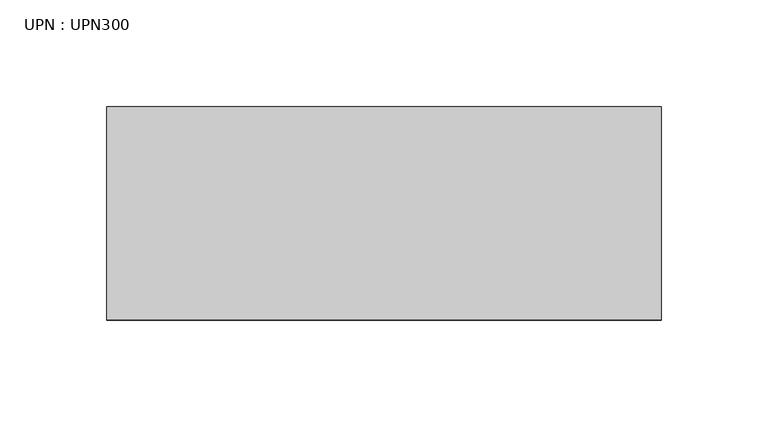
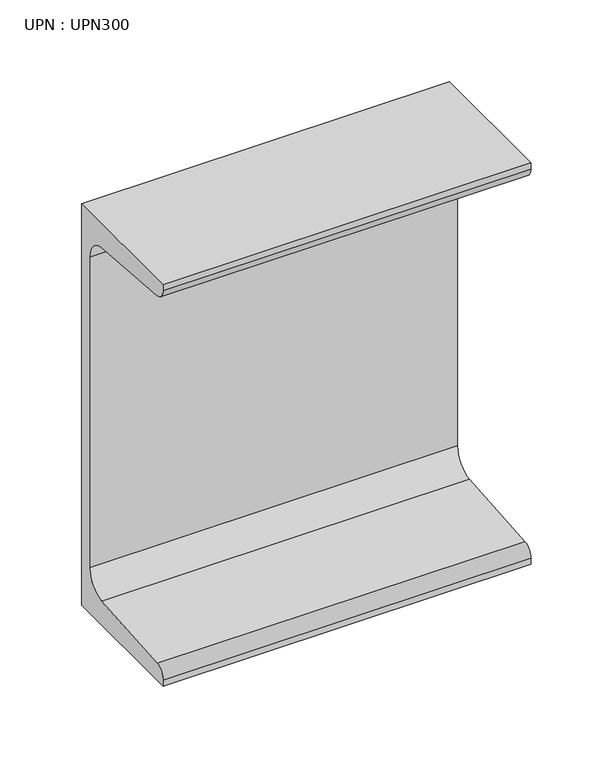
"""IFC4 building model written with IfcOpenShell, lengths in millimetres: beam geometry, UPN : UPN300."""

from ifc_helpers import new_model, si_unit, point, frame, frame_2d, origin, place, context, project, spatial, polyline, circle_curve, trimmed, segment, composite_curve, outline, extrude, source, transform, mapped, element, save


def upn_upn300_93d84ab9(model_context):
    return source(origin(), model_context, "Body", "SweptSolid", [
        extrude(outline(composite_curve([segment(polyline([(27.0, 150.0), (27.0, -150.0), (-73.0, -150.0), (-73.0, -145.3826224)]), True, "CONTINUOUS"), segment(trimmed(circle_curve(frame_2d((-65.0, -145.3826224)), 8.0), [point((-73.0, -145.3826224))], [point((-65.637416, -137.4080566))], False, "CARTESIAN"), True, "CONTINUOUS"), segment(polyline([(-65.637416, -137.4080566), (2.274832, -131.9797543)]), True, "CONTINUOUS"), segment(trimmed(circle_curve(frame_2d((1.0, -116.0306225)), 16.0), [point((2.274832, -131.9797543))], [point((17.0, -116.0306225))], True, "CARTESIAN"), True, "CONTINUOUS"), segment(polyline([(17.0, -116.0306225), (17.0, 116.0306225)]), True, "CONTINUOUS"), segment(trimmed(circle_curve(frame_2d((1.0, 116.0306225)), 16.0), [point((17.0, 116.0306225))], [point((2.274832, 131.9797543))], True, "CARTESIAN"), True, "CONTINUOUS"), segment(polyline([(2.274832, 131.9797543), (-65.637416, 137.4080566)]), True, "CONTINUOUS"), segment(trimmed(circle_curve(frame_2d((-65.0, 145.3826224)), 8.0), [point((-65.637416, 137.4080566))], [point((-73.0, 145.3826224))], False, "CARTESIAN"), True, "CONTINUOUS"), segment(polyline([(-73.0, 145.3826224), (-73.0, 150.0), (27.0, 150.0)]), True, "CONTINUOUS")], self_intersect=False)), frame((-130.0, 0.0, 0.0), z_axis=(1.0, 0.0, 0.0), x_axis=(0.0, 1.0, 0.0)), (0.0, 0.0, 1.0), 260.0),
    ])


if __name__ == "__main__":
    model = new_model("IFC4")
    model_context = context("Model", 3, world=origin())
    ifc_project = project(units=[si_unit("LENGTHUNIT", "METRE", prefix="MILLI")], contexts=[model_context])
    site = spatial("IfcSite", under=ifc_project)
    building = spatial("IfcBuilding", under=site)
    placement = place(None, origin())
    upn_upn300_shape = upn_upn300_93d84ab9(model_context)
    element("IfcBeam", 1, ObjectType="UPN : UPN300", at=placement, inside=building, context=model_context, shape_type="MappedRepresentation", body=[
        mapped(upn_upn300_shape, transform((0.0, 0.0, 0.0), x_axis=(1.0, 0.0, 0.0), y_axis=(0.0, 1.0, 0.0), z_axis=(0.0, 0.0, 1.0))),
    ])
    save(model, "model.ifc")
